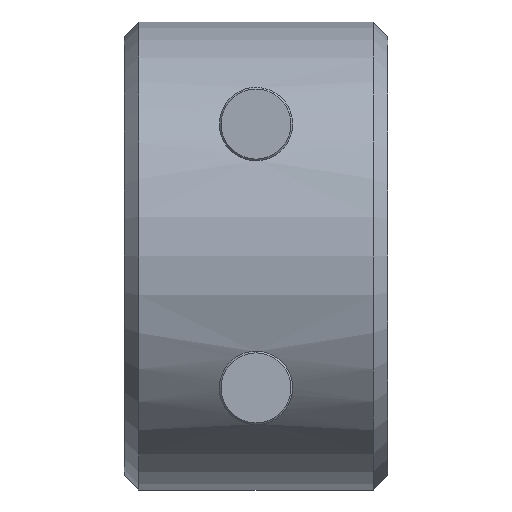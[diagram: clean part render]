
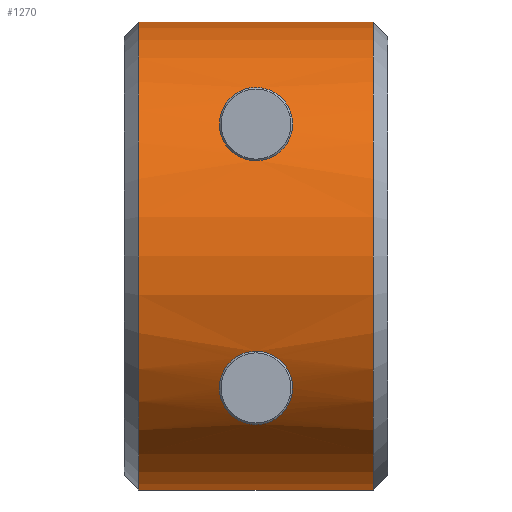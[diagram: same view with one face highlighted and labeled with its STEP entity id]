
A CAD part, front view. The second image highlights one B-rep face of the part: STEP entity #1270.
In plain terms, the highlighted cylindrical face has radius 8 mm (diameter 16 mm), a partial arc.
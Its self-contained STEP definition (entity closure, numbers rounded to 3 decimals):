
#806=DIRECTION('',(1.,0.,0.));
#807=VECTOR('',#806,8.);
#808=CARTESIAN_POINT('',(-4.,0.5,-7.984));
#809=LINE('',#808,#807);
#810=DIRECTION('',(1.,0.,0.));
#811=VECTOR('',#810,8.);
#812=CARTESIAN_POINT('',(-4.,0.5,7.984));
#813=LINE('',#812,#811);
#814=CARTESIAN_POINT('',(1.25,6.614,4.5));
#815=CARTESIAN_POINT('',(1.25,6.546,4.601));
#816=CARTESIAN_POINT('',(1.227,6.406,4.797));
#817=CARTESIAN_POINT('',(1.116,6.174,5.092));
#818=CARTESIAN_POINT('',(0.936,5.953,5.348));
#819=CARTESIAN_POINT('',(0.703,5.765,5.548));
#820=CARTESIAN_POINT('',(0.437,5.63,5.684));
#821=CARTESIAN_POINT('',(0.133,5.557,5.755));
#822=CARTESIAN_POINT('',(-0.169,5.561,5.751));
#823=CARTESIAN_POINT('',(-0.473,5.644,5.67));
#824=CARTESIAN_POINT('',(-0.731,5.784,5.528));
#825=CARTESIAN_POINT('',(-0.955,5.972,5.325));
#826=CARTESIAN_POINT('',(-1.124,6.189,5.074));
#827=CARTESIAN_POINT('',(-1.228,6.412,4.788));
#828=CARTESIAN_POINT('',(-1.25,6.548,4.597));
#829=CARTESIAN_POINT('',(-1.25,6.614,4.5));
#831=CARTESIAN_POINT('',(-1.25,6.614,4.5));
#832=CARTESIAN_POINT('',(-1.25,6.713,4.354));
#833=CARTESIAN_POINT('',(-1.201,6.886,4.081));
#834=CARTESIAN_POINT('',(-1.006,7.084,3.723));
#835=CARTESIAN_POINT('',(-0.714,7.219,3.45));
#836=CARTESIAN_POINT('',(-0.367,7.295,3.285));
#837=CARTESIAN_POINT('',(-0.004,7.317,3.234));
#838=CARTESIAN_POINT('',(0.321,7.297,3.279));
#839=CARTESIAN_POINT('',(0.591,7.248,3.388));
#840=CARTESIAN_POINT('',(0.79,7.183,3.523));
#841=CARTESIAN_POINT('',(0.943,7.109,3.671));
#842=CARTESIAN_POINT('',(1.057,7.027,3.825));
#843=CARTESIAN_POINT('',(1.144,6.937,3.986));
#844=CARTESIAN_POINT('',(1.206,6.837,4.156));
#845=CARTESIAN_POINT('',(1.242,6.728,4.329));
#846=CARTESIAN_POINT('',(1.25,6.653,4.443));
#847=CARTESIAN_POINT('',(1.25,6.614,4.5));
#849=CARTESIAN_POINT('',(1.25,6.614,-4.5));
#850=CARTESIAN_POINT('',(1.25,6.713,-4.354));
#851=CARTESIAN_POINT('',(1.201,6.886,-4.081));
#852=CARTESIAN_POINT('',(1.006,7.084,-3.723));
#853=CARTESIAN_POINT('',(0.714,7.219,-3.45));
#854=CARTESIAN_POINT('',(0.367,7.295,-3.285));
#855=CARTESIAN_POINT('',(0.004,7.317,-3.234));
#856=CARTESIAN_POINT('',(-0.321,7.297,
-3.279));
#857=CARTESIAN_POINT('',(-0.591,7.248,
-3.388));
#858=CARTESIAN_POINT('',(-0.79,7.183,
-3.523));
#859=CARTESIAN_POINT('',(-0.943,7.109,
-3.671));
#860=CARTESIAN_POINT('',(-1.057,7.027,-3.825));
#861=CARTESIAN_POINT('',(-1.144,6.937,-3.986));
#862=CARTESIAN_POINT('',(-1.206,6.837,-4.156));
#863=CARTESIAN_POINT('',(-1.242,6.728,-4.329));
#864=CARTESIAN_POINT('',(-1.25,6.653,-4.443));
#865=CARTESIAN_POINT('',(-1.25,6.614,-4.5));
#867=CARTESIAN_POINT('',(-1.25,6.614,-4.5));
#868=CARTESIAN_POINT('',(-1.25,6.54,-4.609));
#869=CARTESIAN_POINT('',(-1.223,6.388,-4.822));
#870=CARTESIAN_POINT('',(-1.093,6.135,-5.139));
#871=CARTESIAN_POINT('',(-0.881,5.899,
-5.407));
#872=CARTESIAN_POINT('',(-0.619,5.712,
-5.603));
#873=CARTESIAN_POINT('',(-0.311,5.588,
-5.726));
#874=CARTESIAN_POINT('',(0.016,5.547,-5.764));
#875=CARTESIAN_POINT('',(0.348,5.598,-5.716));
#876=CARTESIAN_POINT('',(0.65,5.73,-5.584));
#877=CARTESIAN_POINT('',(0.902,5.919,-5.385));
#878=CARTESIAN_POINT('',(1.103,6.151,-5.12));
#879=CARTESIAN_POINT('',(1.224,6.394,-4.813));
#880=CARTESIAN_POINT('',(1.25,6.542,-4.606));
#881=CARTESIAN_POINT('',(1.25,6.614,-4.5));
#895=CARTESIAN_POINT('',(4.,0.,0.));
#896=DIRECTION('',(1.,0.,0.));
#897=DIRECTION('',(0.,0.063,-0.998));
#898=AXIS2_PLACEMENT_3D('',#895,#896,#897);
#983=CARTESIAN_POINT('',(-4.,0.,0.));
#984=DIRECTION('',(1.,0.,0.));
#985=DIRECTION('',(0.,0.063,-0.998));
#986=AXIS2_PLACEMENT_3D('',#983,#984,#985);
#1039=CARTESIAN_POINT('',(-4.,0.5,-7.984));
#1040=CARTESIAN_POINT('',(-4.,0.5,7.984));
#1041=VERTEX_POINT('',#1039);
#1042=VERTEX_POINT('',#1040);
#1047=CARTESIAN_POINT('',(4.,0.5,-7.984));
#1048=CARTESIAN_POINT('',(4.,0.5,7.984));
#1049=VERTEX_POINT('',#1047);
#1050=VERTEX_POINT('',#1048);
#1075=VERTEX_POINT('',#814);
#1076=VERTEX_POINT('',#829);
#1077=VERTEX_POINT('',#849);
#1078=VERTEX_POINT('',#865);
#1246=CARTESIAN_POINT('',(-4.5,0.,0.));
#1247=DIRECTION('',(1.,0.,0.));
#1248=DIRECTION('',(0.,0.,-1.));
#1249=AXIS2_PLACEMENT_3D('',#1246,#1247,#1248);
#1250=CYLINDRICAL_SURFACE('',#1249,8.);
#1251=ORIENTED_EDGE('',*,*,#1189,.T.);
#1253=ORIENTED_EDGE('',*,*,#1252,.T.);
#1254=ORIENTED_EDGE('',*,*,#1150,.F.);
#1256=ORIENTED_EDGE('',*,*,#1255,.F.);
#1257=EDGE_LOOP('',(#1251,#1253,#1254,#1256));
#1258=FACE_OUTER_BOUND('',#1257,.F.);
#1260=ORIENTED_EDGE('',*,*,#1259,.F.);
#1261=ORIENTED_EDGE('',*,*,#1236,.F.);
#1262=EDGE_LOOP('',(#1260,#1261));
#1263=FACE_BOUND('',#1262,.F.);
#1265=ORIENTED_EDGE('',*,*,#1264,.F.);
#1267=ORIENTED_EDGE('',*,*,#1266,.F.);
#1268=EDGE_LOOP('',(#1265,#1267));
#1269=FACE_BOUND('',#1268,.F.);
#1270=ADVANCED_FACE('',(#1258,#1263,#1269),#1250,.T.);
#830=B_SPLINE_CURVE_WITH_KNOTS('',3,(#814,#815,#816,#817,#818,#819,#820,#821,
#822,#823,#824,#825,#826,#827,#828,#829),.UNSPECIFIED.,.F.,.F.,(4,1,1,1,1,1,1,1,
1,1,1,1,1,4),(0.,0.077,0.154,0.231,
0.308,0.385,0.462,0.538,
0.615,0.692,0.769,0.846,
0.923,1.),.UNSPECIFIED.);
#848=B_SPLINE_CURVE_WITH_KNOTS('',3,(#831,#832,#833,#834,#835,#836,#837,#838,
#839,#840,#841,#842,#843,#844,#845,#846,#847),.UNSPECIFIED.,.F.,.F.,(4,1,1,1,1,
1,1,1,1,1,1,1,1,1,4),(0.,0.071,0.143,
0.214,0.286,0.357,0.429,0.5,
0.571,0.643,0.714,0.786,
0.857,0.929,1.),.UNSPECIFIED.);
#866=B_SPLINE_CURVE_WITH_KNOTS('',3,(#849,#850,#851,#852,#853,#854,#855,#856,
#857,#858,#859,#860,#861,#862,#863,#864,#865),.UNSPECIFIED.,.F.,.F.,(4,1,1,1,1,
1,1,1,1,1,1,1,1,1,4),(0.,0.071,0.143,
0.214,0.286,0.357,0.429,0.5,
0.571,0.643,0.714,0.786,
0.857,0.929,1.),.UNSPECIFIED.);
#882=B_SPLINE_CURVE_WITH_KNOTS('',3,(#867,#868,#869,#870,#871,#872,#873,#874,
#875,#876,#877,#878,#879,#880,#881),.UNSPECIFIED.,.F.,.F.,(4,1,1,1,1,1,1,1,1,1,
1,1,4),(0.,0.083,0.167,0.25,0.333,
0.417,0.5,0.583,0.667,0.75,
0.833,0.917,1.),.UNSPECIFIED.);
#899=CIRCLE('',#898,8.);
#987=CIRCLE('',#986,8.);
#1150=EDGE_CURVE('',#1042,#1050,#813,.T.);
#1189=EDGE_CURVE('',#1041,#1049,#809,.T.);
#1236=EDGE_CURVE('',#1076,#1075,#848,.T.);
#1252=EDGE_CURVE('',#1049,#1050,#899,.T.);
#1255=EDGE_CURVE('',#1041,#1042,#987,.T.);
#1259=EDGE_CURVE('',#1075,#1076,#830,.T.);
#1264=EDGE_CURVE('',#1077,#1078,#866,.T.);
#1266=EDGE_CURVE('',#1078,#1077,#882,.T.);
